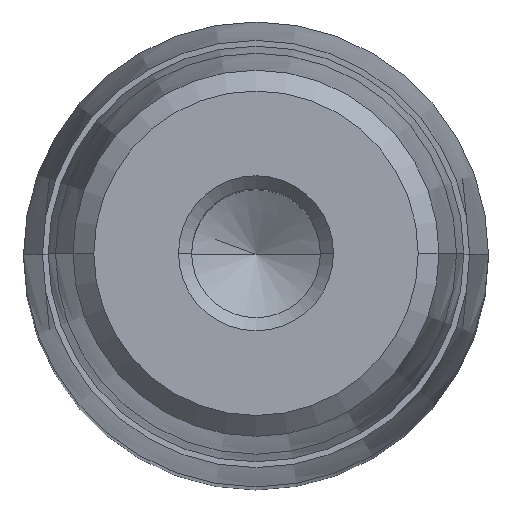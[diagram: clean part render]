
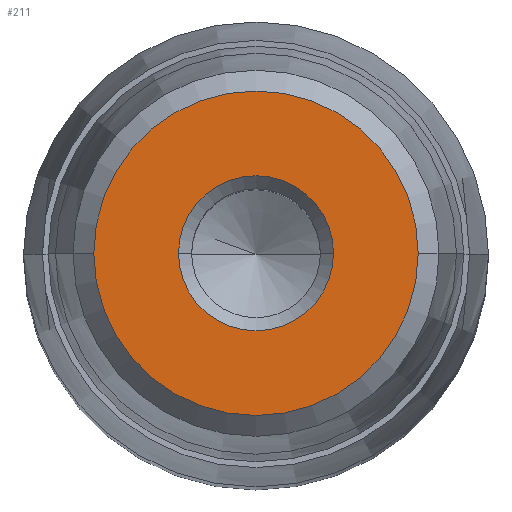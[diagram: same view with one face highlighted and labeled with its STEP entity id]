
A CAD part, top view. The second image highlights one B-rep face of the part: STEP entity #211.
In plain terms, the highlighted planar face has unit normal (0, 0, 1).
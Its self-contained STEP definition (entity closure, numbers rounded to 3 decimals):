
#136=CARTESIAN_POINT('Axis2P3D Location',(0.,0.,35.)) ;
#140=CARTESIAN_POINT('Vertex',(-4.,0.,35.)) ;
#142=CARTESIAN_POINT('Vertex',(4.,0.,35.)) ;
#179=CARTESIAN_POINT('Axis2P3D Location',(0.,4.,35.)) ;
#184=CARTESIAN_POINT('Axis2P3D Location',(0.,0.,35.)) ;
#188=CARTESIAN_POINT('Vertex',(-8.375,0.,35.)) ;
#190=CARTESIAN_POINT('Vertex',(8.375,0.,35.)) ;
#193=CARTESIAN_POINT('Axis2P3D Location',(0.,0.,35.)) ;
#202=CARTESIAN_POINT('Axis2P3D Location',(0.,0.,35.)) ;
#137=DIRECTION('Axis2P3D Direction',(0.,-0.,1.)) ;
#180=DIRECTION('Axis2P3D Direction',(0.,0.,-1.)) ;
#181=DIRECTION('Axis2P3D XDirection',(-1.,0.,0.)) ;
#185=DIRECTION('Axis2P3D Direction',(0.,0.,-1.)) ;
#194=DIRECTION('Axis2P3D Direction',(0.,0.,-1.)) ;
#203=DIRECTION('Axis2P3D Direction',(0.,0.,-1.)) ;
#138=AXIS2_PLACEMENT_3D('Circle Axis2P3D',#136,#137,$) ;
#182=AXIS2_PLACEMENT_3D('Plane Axis2P3D',#179,#180,#181) ;
#186=AXIS2_PLACEMENT_3D('Circle Axis2P3D',#184,#185,$) ;
#195=AXIS2_PLACEMENT_3D('Circle Axis2P3D',#193,#194,$) ;
#204=AXIS2_PLACEMENT_3D('Circle Axis2P3D',#202,#203,$) ;
#199=ORIENTED_EDGE('',*,*,#192,.F.) ;
#200=ORIENTED_EDGE('',*,*,#197,.F.) ;
#208=ORIENTED_EDGE('',*,*,#206,.T.) ;
#209=ORIENTED_EDGE('',*,*,#144,.T.) ;
#210=FACE_BOUND('',#207,.T.) ;
#211=ADVANCED_FACE('722-24x112x135',(#201,#210),#183,.F.) ;
#139=CIRCLE('generated circle',#138,4.) ;
#187=CIRCLE('generated circle',#186,8.375) ;
#196=CIRCLE('generated circle',#195,8.375) ;
#205=CIRCLE('generated circle',#204,4.) ;
#144=EDGE_CURVE('',#141,#143,#139,.F.) ;
#192=EDGE_CURVE('',#189,#191,#187,.T.) ;
#197=EDGE_CURVE('',#191,#189,#196,.T.) ;
#206=EDGE_CURVE('',#143,#141,#205,.T.) ;
#198=EDGE_LOOP('',(#199,#200)) ;
#207=EDGE_LOOP('',(#208,#209)) ;
#201=FACE_OUTER_BOUND('',#198,.T.) ;
#183=PLANE('Plane',#182) ;
#141=VERTEX_POINT('',#140) ;
#143=VERTEX_POINT('',#142) ;
#189=VERTEX_POINT('',#188) ;
#191=VERTEX_POINT('',#190) ;
